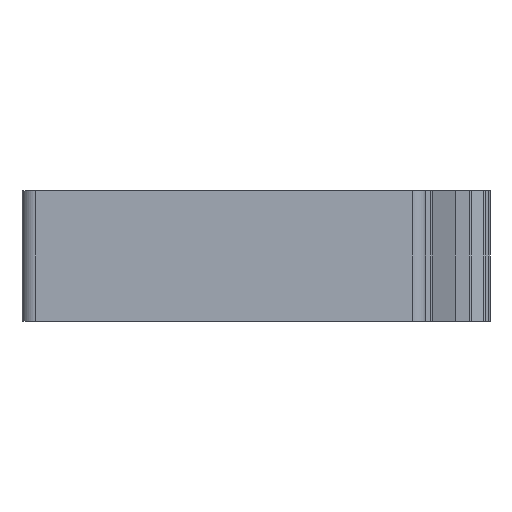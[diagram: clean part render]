
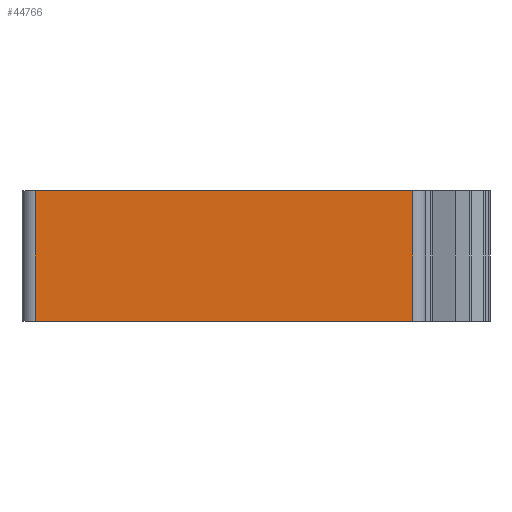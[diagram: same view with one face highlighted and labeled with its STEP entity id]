
A CAD part, front view. The second image highlights one B-rep face of the part: STEP entity #44766.
In plain terms, the highlighted planar face has unit normal (0, -1, 0).
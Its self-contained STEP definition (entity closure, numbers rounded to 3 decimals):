
#42970 = PLANE('',#42971);
#42971 = AXIS2_PLACEMENT_3D('',#42972,#42973,#42974);
#42972 = CARTESIAN_POINT('',(0.,0.,22.));
#42973 = DIRECTION('',(0.,0.,1.));
#42974 = DIRECTION('',(1.,0.,0.));
#42998 = CYLINDRICAL_SURFACE('',#42999,2.2);
#42999 = AXIS2_PLACEMENT_3D('',#43000,#43001,#43002);
#43000 = CARTESIAN_POINT('',(2.2,2.2,0.));
#43001 = DIRECTION('',(0.,0.,1.));
#43002 = DIRECTION('',(-1.,-0.,0.));
#43026 = PLANE('',#43027);
#43027 = AXIS2_PLACEMENT_3D('',#43028,#43029,#43030);
#43028 = CARTESIAN_POINT('',(0.,0.,0.));
#43029 = DIRECTION('',(0.,0.,1.));
#43030 = DIRECTION('',(1.,0.,0.));
#43069 = VERTEX_POINT('',#43070);
#43070 = CARTESIAN_POINT('',(2.2,0.,22.));
#43092 = EDGE_CURVE('',#43069,#43093,#43095,.T.);
#43093 = VERTEX_POINT('',#43094);
#43094 = CARTESIAN_POINT('',(65.8,0.,22.));
#43095 = SURFACE_CURVE('',#43096,(#43100,#43107),.PCURVE_S1.);
#43096 = LINE('',#43097,#43098);
#43097 = CARTESIAN_POINT('',(0.,0.,22.));
#43098 = VECTOR('',#43099,1.);
#43099 = DIRECTION('',(1.,0.,0.));
#43100 = PCURVE('',#42970,#43101);
#43101 = DEFINITIONAL_REPRESENTATION('',(#43102),#43106);
#43102 = LINE('',#43103,#43104);
#43103 = CARTESIAN_POINT('',(0.,0.));
#43104 = VECTOR('',#43105,1.);
#43105 = DIRECTION('',(1.,0.));
#43106 = ( GEOMETRIC_REPRESENTATION_CONTEXT(2) 
PARAMETRIC_REPRESENTATION_CONTEXT() REPRESENTATION_CONTEXT('2D SPACE',''
  ) );
#43107 = PCURVE('',#43108,#43113);
#43108 = PLANE('',#43109);
#43109 = AXIS2_PLACEMENT_3D('',#43110,#43111,#43112);
#43110 = CARTESIAN_POINT('',(0.,0.,0.));
#43111 = DIRECTION('',(0.,1.,0.));
#43112 = DIRECTION('',(0.,0.,1.));
#43113 = DEFINITIONAL_REPRESENTATION('',(#43114),#43118);
#43114 = LINE('',#43115,#43116);
#43115 = CARTESIAN_POINT('',(22.,0.));
#43116 = VECTOR('',#43117,1.);
#43117 = DIRECTION('',(0.,1.));
#43118 = ( GEOMETRIC_REPRESENTATION_CONTEXT(2) 
PARAMETRIC_REPRESENTATION_CONTEXT() REPRESENTATION_CONTEXT('2D SPACE',''
  ) );
#43141 = CYLINDRICAL_SURFACE('',#43142,2.2);
#43142 = AXIS2_PLACEMENT_3D('',#43143,#43144,#43145);
#43143 = CARTESIAN_POINT('',(65.8,2.2,0.));
#43144 = DIRECTION('',(0.,0.,1.));
#43145 = DIRECTION('',(1.,0.,-0.));
#43969 = VERTEX_POINT('',#43970);
#43970 = CARTESIAN_POINT('',(2.2,0.,0.));
#43992 = EDGE_CURVE('',#43969,#43069,#43993,.T.);
#43993 = SURFACE_CURVE('',#43994,(#43998,#44005),.PCURVE_S1.);
#43994 = LINE('',#43995,#43996);
#43995 = CARTESIAN_POINT('',(2.2,0.,0.));
#43996 = VECTOR('',#43997,1.);
#43997 = DIRECTION('',(0.,0.,1.));
#43998 = PCURVE('',#42998,#43999);
#43999 = DEFINITIONAL_REPRESENTATION('',(#44000),#44004);
#44000 = LINE('',#44001,#44002);
#44001 = CARTESIAN_POINT('',(1.571,0.));
#44002 = VECTOR('',#44003,1.);
#44003 = DIRECTION('',(0.,1.));
#44004 = ( GEOMETRIC_REPRESENTATION_CONTEXT(2) 
PARAMETRIC_REPRESENTATION_CONTEXT() REPRESENTATION_CONTEXT('2D SPACE',''
  ) );
#44005 = PCURVE('',#43108,#44006);
#44006 = DEFINITIONAL_REPRESENTATION('',(#44007),#44011);
#44007 = LINE('',#44008,#44009);
#44008 = CARTESIAN_POINT('',(0.,2.2));
#44009 = VECTOR('',#44010,1.);
#44010 = DIRECTION('',(1.,0.));
#44011 = ( GEOMETRIC_REPRESENTATION_CONTEXT(2) 
PARAMETRIC_REPRESENTATION_CONTEXT() REPRESENTATION_CONTEXT('2D SPACE',''
  ) );
#44074 = EDGE_CURVE('',#43969,#44075,#44077,.T.);
#44075 = VERTEX_POINT('',#44076);
#44076 = CARTESIAN_POINT('',(65.8,0.,0.));
#44077 = SURFACE_CURVE('',#44078,(#44082,#44089),.PCURVE_S1.);
#44078 = LINE('',#44079,#44080);
#44079 = CARTESIAN_POINT('',(0.,0.,0.));
#44080 = VECTOR('',#44081,1.);
#44081 = DIRECTION('',(1.,0.,0.));
#44082 = PCURVE('',#43026,#44083);
#44083 = DEFINITIONAL_REPRESENTATION('',(#44084),#44088);
#44084 = LINE('',#44085,#44086);
#44085 = CARTESIAN_POINT('',(0.,0.));
#44086 = VECTOR('',#44087,1.);
#44087 = DIRECTION('',(1.,0.));
#44088 = ( GEOMETRIC_REPRESENTATION_CONTEXT(2) 
PARAMETRIC_REPRESENTATION_CONTEXT() REPRESENTATION_CONTEXT('2D SPACE',''
  ) );
#44089 = PCURVE('',#43108,#44090);
#44090 = DEFINITIONAL_REPRESENTATION('',(#44091),#44095);
#44091 = LINE('',#44092,#44093);
#44092 = CARTESIAN_POINT('',(0.,0.));
#44093 = VECTOR('',#44094,1.);
#44094 = DIRECTION('',(0.,1.));
#44095 = ( GEOMETRIC_REPRESENTATION_CONTEXT(2) 
PARAMETRIC_REPRESENTATION_CONTEXT() REPRESENTATION_CONTEXT('2D SPACE',''
  ) );
#44766 = ADVANCED_FACE('',(#44767),#43108,.F.);
#44767 = FACE_BOUND('',#44768,.F.);
#44768 = EDGE_LOOP('',(#44769,#44770,#44771,#44772));
#44769 = ORIENTED_EDGE('',*,*,#44074,.F.);
#44770 = ORIENTED_EDGE('',*,*,#43992,.T.);
#44771 = ORIENTED_EDGE('',*,*,#43092,.T.);
#44772 = ORIENTED_EDGE('',*,*,#44773,.F.);
#44773 = EDGE_CURVE('',#44075,#43093,#44774,.T.);
#44774 = SURFACE_CURVE('',#44775,(#44779,#44786),.PCURVE_S1.);
#44775 = LINE('',#44776,#44777);
#44776 = CARTESIAN_POINT('',(65.8,0.,0.));
#44777 = VECTOR('',#44778,1.);
#44778 = DIRECTION('',(0.,0.,1.));
#44779 = PCURVE('',#43108,#44780);
#44780 = DEFINITIONAL_REPRESENTATION('',(#44781),#44785);
#44781 = LINE('',#44782,#44783);
#44782 = CARTESIAN_POINT('',(0.,65.8));
#44783 = VECTOR('',#44784,1.);
#44784 = DIRECTION('',(1.,0.));
#44785 = ( GEOMETRIC_REPRESENTATION_CONTEXT(2) 
PARAMETRIC_REPRESENTATION_CONTEXT() REPRESENTATION_CONTEXT('2D SPACE',''
  ) );
#44786 = PCURVE('',#43141,#44787);
#44787 = DEFINITIONAL_REPRESENTATION('',(#44788),#44792);
#44788 = LINE('',#44789,#44790);
#44789 = CARTESIAN_POINT('',(-1.571,0.));
#44790 = VECTOR('',#44791,1.);
#44791 = DIRECTION('',(-0.,1.));
#44792 = ( GEOMETRIC_REPRESENTATION_CONTEXT(2) 
PARAMETRIC_REPRESENTATION_CONTEXT() REPRESENTATION_CONTEXT('2D SPACE',''
  ) );
